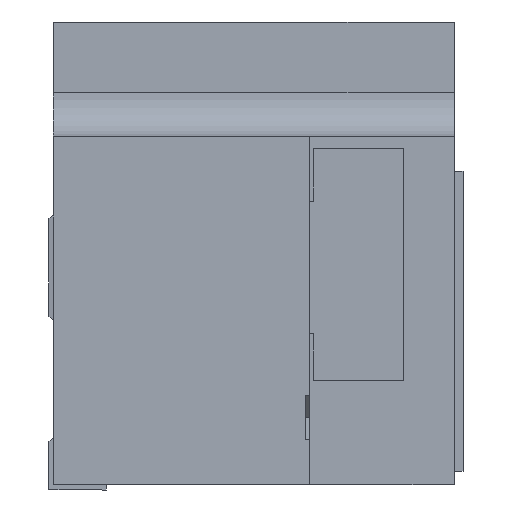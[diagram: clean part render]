
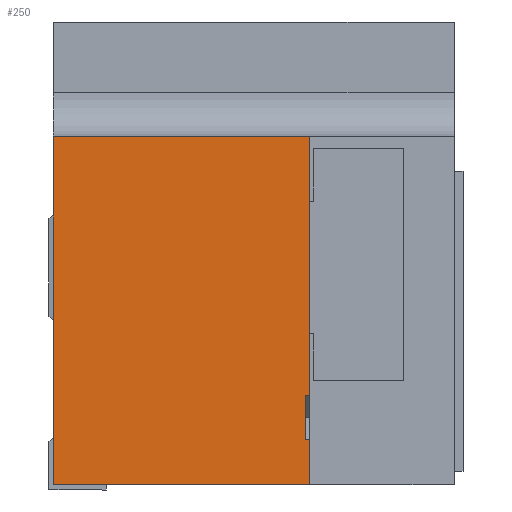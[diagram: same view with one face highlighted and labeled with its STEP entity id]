
A CAD part, left-side view. The second image highlights one B-rep face of the part: STEP entity #250.
In plain terms, the highlighted planar face has unit normal (-1, 0, 0).
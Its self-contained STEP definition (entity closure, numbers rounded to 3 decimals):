
#86=FACE_OUTER_BOUND('',#599,.T.);
#250=ADVANCED_FACE('',(#86),#419,.T.);
#419=PLANE('',#3365);
#599=EDGE_LOOP('',(#795,#796,#797,#798,#799,#800,#801,#802));
#795=ORIENTED_EDGE('',*,*,#2035,.F.);
#796=ORIENTED_EDGE('',*,*,#2036,.T.);
#797=ORIENTED_EDGE('',*,*,#2033,.T.);
#798=ORIENTED_EDGE('',*,*,#2037,.F.);
#799=ORIENTED_EDGE('',*,*,#2038,.T.);
#800=ORIENTED_EDGE('',*,*,#2039,.T.);
#801=ORIENTED_EDGE('',*,*,#2029,.T.);
#802=ORIENTED_EDGE('',*,*,#2040,.F.);
#1718=VERTEX_POINT('',#4404);
#1720=VERTEX_POINT('',#4407);
#1723=VERTEX_POINT('',#4413);
#1724=VERTEX_POINT('',#4415);
#1725=VERTEX_POINT('',#4419);
#1726=VERTEX_POINT('',#4420);
#1727=VERTEX_POINT('',#4423);
#1728=VERTEX_POINT('',#4425);
#2029=EDGE_CURVE('',#1720,#1718,#2494,.T.);
#2033=EDGE_CURVE('',#1724,#1723,#2498,.T.);
#2035=EDGE_CURVE('',#1725,#1726,#2500,.T.);
#2036=EDGE_CURVE('',#1725,#1724,#2501,.T.);
#2037=EDGE_CURVE('',#1727,#1723,#2502,.T.);
#2038=EDGE_CURVE('',#1727,#1728,#2503,.T.);
#2039=EDGE_CURVE('',#1728,#1720,#2504,.T.);
#2040=EDGE_CURVE('',#1726,#1718,#2505,.T.);
#2494=LINE('',#4406,#2931);
#2498=LINE('',#4414,#2935);
#2500=LINE('',#4418,#2937);
#2501=LINE('',#4421,#2938);
#2502=LINE('',#4422,#2939);
#2503=LINE('',#4424,#2940);
#2504=LINE('',#4426,#2941);
#2505=LINE('',#4427,#2942);
#2931=VECTOR('',#3568,1.);
#2935=VECTOR('',#3572,1.);
#2937=VECTOR('',#3576,1.);
#2938=VECTOR('',#3577,1.);
#2939=VECTOR('',#3578,1.);
#2940=VECTOR('',#3579,1.);
#2941=VECTOR('',#3580,1.);
#2942=VECTOR('',#3581,1.);
#3365=AXIS2_PLACEMENT_3D('',#4428,#3582,#3583);
#3568=DIRECTION('',(0.,0.,1.));
#3572=DIRECTION('',(0.,0.,1.));
#3576=DIRECTION('',(0.,0.,-1.));
#3577=DIRECTION('',(0.,-1.,0.));
#3578=DIRECTION('',(0.,-1.,0.));
#3579=DIRECTION('',(0.,0.,-1.));
#3580=DIRECTION('',(0.,-1.,0.));
#3581=DIRECTION('',(0.,-1.,0.));
#3582=DIRECTION('',(-1.,0.,0.));
#3583=DIRECTION('',(0.,0.,1.));
#4404=CARTESIAN_POINT('',(-6.,5.95,-0.045));
#4406=CARTESIAN_POINT('',(-6.,5.95,-35.621));
#4407=CARTESIAN_POINT('',(-6.,5.95,-0.555));
#4413=CARTESIAN_POINT('',(-6.,5.95,3.385));
#4414=CARTESIAN_POINT('',(-6.,5.95,-35.621));
#4415=CARTESIAN_POINT('',(-6.,5.95,0.455));
#4418=CARTESIAN_POINT('',(-6.,6.,0.455));
#4419=CARTESIAN_POINT('',(-6.,6.,0.455));
#4420=CARTESIAN_POINT('',(-6.,6.,-0.045));
#4421=CARTESIAN_POINT('',(-6.,6.,0.455));
#4422=CARTESIAN_POINT('',(-6.,49.256,3.385));
#4423=CARTESIAN_POINT('',(-6.,8.85,3.385));
#4424=CARTESIAN_POINT('',(-6.,8.85,4.685));
#4425=CARTESIAN_POINT('',(-6.,8.85,-0.555));
#4426=CARTESIAN_POINT('',(-6.,8.85,-0.555));
#4427=CARTESIAN_POINT('',(-6.,6.,-0.045));
#4428=CARTESIAN_POINT('',(-6.,8.85,4.685));
